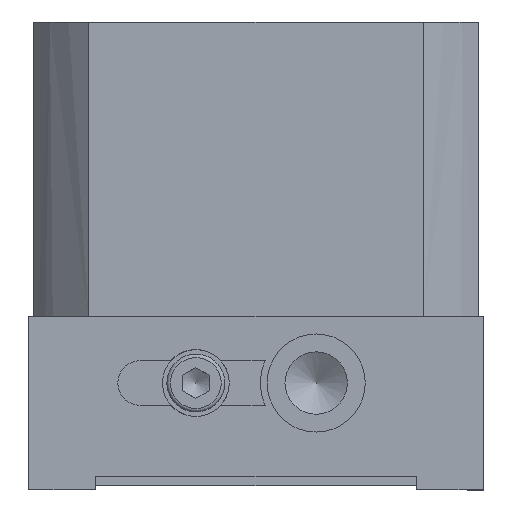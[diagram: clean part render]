
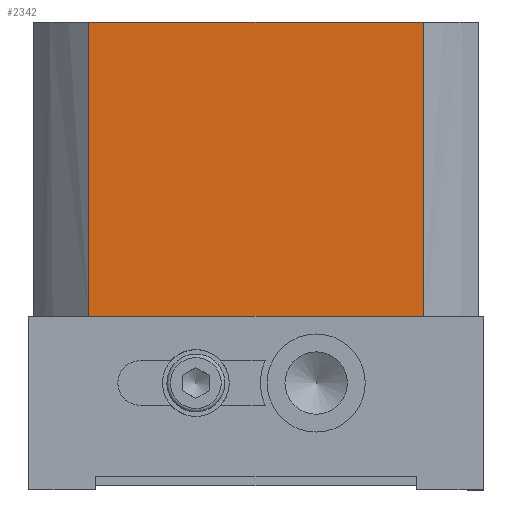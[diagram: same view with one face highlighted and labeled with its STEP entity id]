
A CAD part, left-side view. The second image highlights one B-rep face of the part: STEP entity #2342.
In plain terms, the highlighted planar face has unit normal (-1, 0, 0).
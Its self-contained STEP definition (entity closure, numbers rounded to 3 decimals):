
#2213=CARTESIAN_POINT('',(12.,99.5,-11.));
#2214=VERTEX_POINT('',#2213);
#2227=CARTESIAN_POINT('',(12.,24.5,-11.));
#2228=VERTEX_POINT('',#2227);
#2236=CARTESIAN_POINT('',(12.,99.5,-11.));
#2237=DIRECTION('',(0.0,-1.0,0.0));
#2238=VECTOR('',#2237,75.0);
#2239=LINE('',#2236,#2238);
#2240=EDGE_CURVE('',#2214,#2228,#2239,.T.);
#2258=CARTESIAN_POINT('',(12.,99.5,55.0));
#2259=VERTEX_POINT('',#2258);
#2260=CARTESIAN_POINT('',(12.,99.5,55.0));
#2261=DIRECTION('',(0.0,0.0,-1.0));
#2262=VECTOR('',#2261,66.);
#2263=LINE('',#2260,#2262);
#2264=EDGE_CURVE('',#2259,#2214,#2263,.T.);
#2319=CARTESIAN_POINT('',(12.,99.5,55.0));
#2320=DIRECTION('',(-1.0,0.0,0.0));
#2321=DIRECTION('',(0.0,0.0,1.0));
#2322=AXIS2_PLACEMENT_3D('',#2319,#2320,#2321);
#2323=PLANE('',#2322);
#2324=ORIENTED_EDGE('',*,*,#2240,.T.);
#2325=CARTESIAN_POINT('',(12.,24.5,55.0));
#2326=VERTEX_POINT('',#2325);
#2327=CARTESIAN_POINT('',(12.,24.5,55.0));
#2328=DIRECTION('',(0.0,0.0,-1.0));
#2329=VECTOR('',#2328,66.);
#2330=LINE('',#2327,#2329);
#2331=EDGE_CURVE('',#2326,#2228,#2330,.T.);
#2332=ORIENTED_EDGE('',*,*,#2331,.F.);
#2333=CARTESIAN_POINT('',(12.,99.5,55.0));
#2334=DIRECTION('',(0.0,-1.0,0.0));
#2335=VECTOR('',#2334,75.0);
#2336=LINE('',#2333,#2335);
#2337=EDGE_CURVE('',#2259,#2326,#2336,.T.);
#2338=ORIENTED_EDGE('',*,*,#2337,.F.);
#2339=ORIENTED_EDGE('',*,*,#2264,.T.);
#2340=EDGE_LOOP('',(#2324,#2332,#2338,#2339));
#2341=FACE_OUTER_BOUND('',#2340,.T.);
#2342=ADVANCED_FACE('',(#2341),#2323,.T.);
